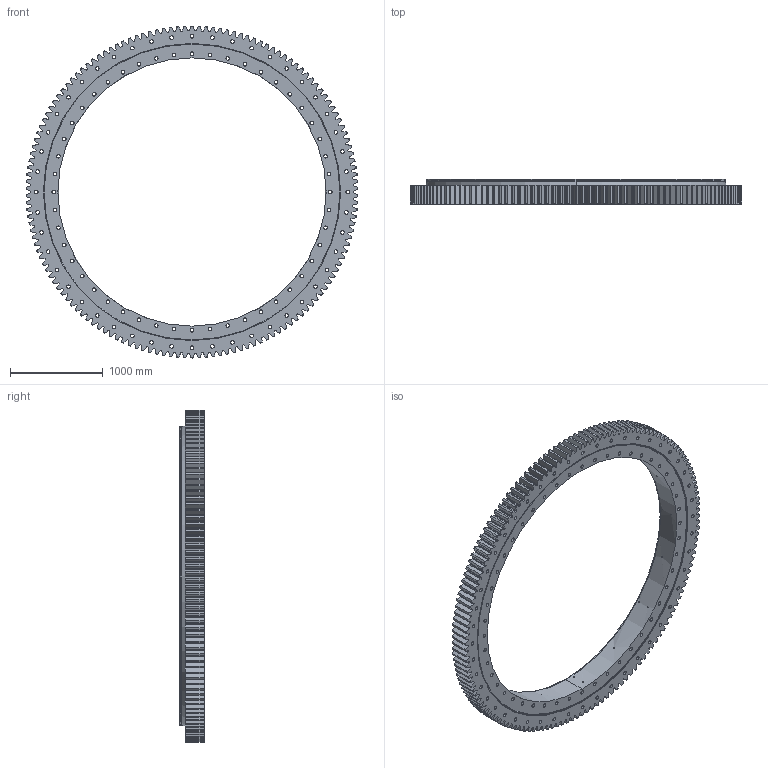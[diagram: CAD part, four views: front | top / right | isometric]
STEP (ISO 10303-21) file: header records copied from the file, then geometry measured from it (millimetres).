
FILE_DESCRIPTION (( 'STEP AP214' ), '1' );
FILE_NAME ('SM3350-2-3571AA.STEP', '2022-11-29T07:17:41', ( '' ), ( '' ), 'SwSTEP 2.0', 'SolidWorks 2020', '' );
FILE_SCHEMA (( 'AUTOMOTIVE_DESIGN' ));
Length unit declared in the file: millimetre
Products named in the file (1): SM3350-2-3571AA
Bounding box: 3570.76 x 268 x 3571.2 mm (x, y, z)
Volume: 713896443.1 mm3; surface area: 23440187.5 mm2
Topology: 5 solids, 5 shells, 1445 faces, 4152 edges, 2759 vertices
Faces by surface type: plane 660, cylinder 479, cone 306
Entity records: 50511 total; most frequent: CARTESIAN_POINT 13357, ORIENTED_EDGE 8304, DIRECTION 7031, EDGE_CURVE 4152, VERTEX_POINT 2759, AXIS2_PLACEMENT_3D 2665, EDGE_LOOP 1705, VECTOR 1701
